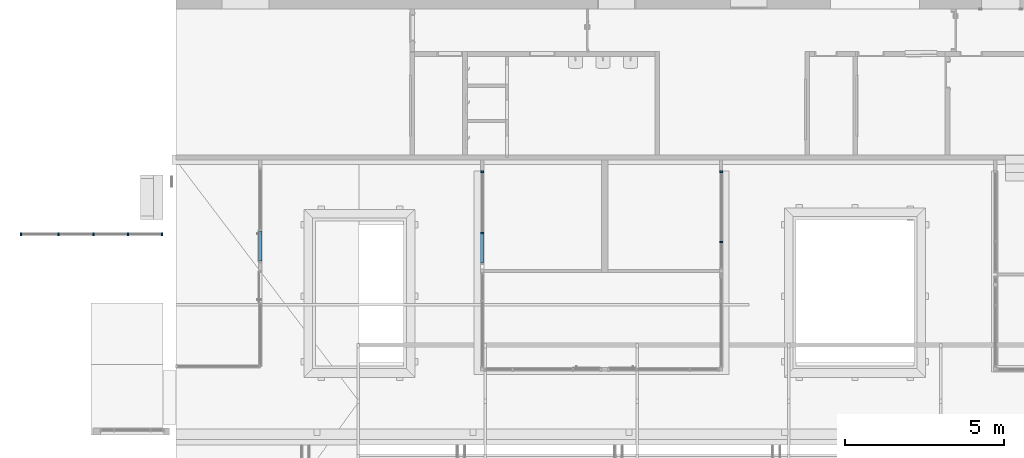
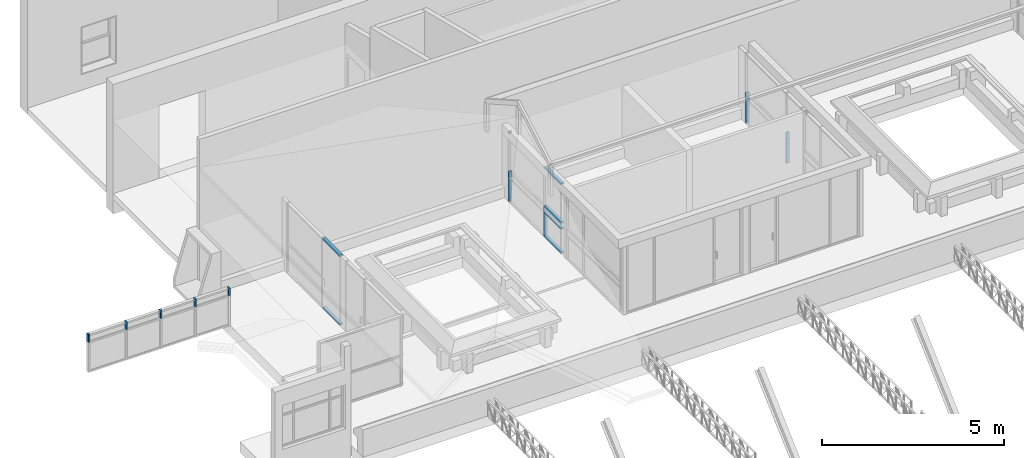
# One storey, part 66 of 153: 22 members, 4 elements without a shape of their own.
"""IFC4 building model written with IfcOpenShell, lengths in metres."""

from ifc_helpers import new_model, entity, si_unit, converted_unit, derived_unit, direction, frame, origin, place, context, subcontext, project, spatial, indexed_curve, outline, extrude, source, transform, mapped, material, type_object, type_shapes, element, aggregate, save


model = new_model("IFC4")

# Units and contexts
model_context = context("Model", 3, precision=1e-05, world=origin(), true_north=direction((6.123031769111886e-17, 1.0)))
body_context = subcontext(model_context, "Body", "Model", "MODEL_VIEW")
ifc_project = project(units=[si_unit("LENGTHUNIT", "METRE"), si_unit("AREAUNIT", "SQUARE_METRE"), si_unit("VOLUMEUNIT", "CUBIC_METRE"), converted_unit("PLANEANGLEUNIT", "DEGREE", entity("IfcRatioMeasure", 0.017453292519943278), si_unit("PLANEANGLEUNIT", "RADIAN"), dimensions=[0, 0, 0, 0, 0, 0, 0]), si_unit("MASSUNIT", "GRAM", prefix="KILO"), derived_unit("MASSDENSITYUNIT", [(si_unit("MASSUNIT", "GRAM", prefix="KILO"), 1), (si_unit("LENGTHUNIT", "METRE"), -3)]), derived_unit("MOMENTOFINERTIAUNIT", [(si_unit("LENGTHUNIT", "METRE"), 4)]), si_unit("TIMEUNIT", "SECOND"), si_unit("FREQUENCYUNIT", "HERTZ"), si_unit("THERMODYNAMICTEMPERATUREUNIT", "DEGREE_CELSIUS"), derived_unit("THERMALTRANSMITTANCEUNIT", [(si_unit("MASSUNIT", "GRAM", prefix="KILO"), 1), (si_unit("THERMODYNAMICTEMPERATUREUNIT", "KELVIN"), -1), (si_unit("TIMEUNIT", "SECOND"), -3)]), derived_unit("VOLUMETRICFLOWRATEUNIT", [(si_unit("LENGTHUNIT", "METRE"), 3), (si_unit("TIMEUNIT", "SECOND"), -1)]), derived_unit("MASSFLOWRATEUNIT", [(si_unit("MASSUNIT", "GRAM", prefix="KILO"), 1), (si_unit("TIMEUNIT", "SECOND"), -1)]), derived_unit("ROTATIONALFREQUENCYUNIT", [(si_unit("TIMEUNIT", "SECOND"), -1)]), si_unit("ELECTRICCURRENTUNIT", "AMPERE"), si_unit("ELECTRICVOLTAGEUNIT", "VOLT"), si_unit("POWERUNIT", "WATT"), si_unit("FORCEUNIT", "NEWTON", prefix="KILO"), si_unit("ILLUMINANCEUNIT", "LUX"), si_unit("LUMINOUSFLUXUNIT", "LUMEN"), si_unit("LUMINOUSINTENSITYUNIT", "CANDELA"), derived_unit("USERDEFINED", [(si_unit("MASSUNIT", "GRAM", prefix="KILO"), -1), (si_unit("LENGTHUNIT", "METRE"), -2), (si_unit("TIMEUNIT", "SECOND"), 3), (si_unit("LUMINOUSFLUXUNIT", "LUMEN"), 1)]), derived_unit("SOUNDPOWERUNIT", [(si_unit("MASSUNIT", "GRAM", prefix="KILO"), 1), (si_unit("LENGTHUNIT", "METRE"), 2), (si_unit("TIMEUNIT", "SECOND"), -3)]), derived_unit("SOUNDPRESSUREUNIT", [(si_unit("MASSUNIT", "GRAM", prefix="KILO"), 1), (si_unit("LENGTHUNIT", "METRE"), -1), (si_unit("TIMEUNIT", "SECOND"), -2)]), derived_unit("LINEARVELOCITYUNIT", [(si_unit("LENGTHUNIT", "METRE"), 1), (si_unit("TIMEUNIT", "SECOND"), -1)]), si_unit("PRESSUREUNIT", "PASCAL"), derived_unit("USERDEFINED", [(si_unit("LENGTHUNIT", "METRE"), -2), (si_unit("MASSUNIT", "GRAM", prefix="KILO"), 1), (si_unit("TIMEUNIT", "SECOND"), -2)]), derived_unit("LINEARFORCEUNIT", [(si_unit("MASSUNIT", "GRAM", prefix="KILO"), 1), (si_unit("LENGTHUNIT", "METRE"), 1), (si_unit("TIMEUNIT", "SECOND"), -2), (si_unit("LENGTHUNIT", "METRE"), -1)]), derived_unit("PLANARFORCEUNIT", [(si_unit("MASSUNIT", "GRAM", prefix="KILO"), 1), (si_unit("LENGTHUNIT", "METRE"), 1), (si_unit("TIMEUNIT", "SECOND"), -2), (si_unit("LENGTHUNIT", "METRE"), -2)])], contexts=[model_context])

# Site, building, storey
site_placement = place(None, origin())
site = spatial("IfcSite", under=ifc_project, at=site_placement, Name="Superficie", CompositionType="ELEMENT")
building_placement = place(site_placement, origin())
building = spatial("IfcBuilding", under=site, at=building_placement, CompositionType="ELEMENT")
storey_placement = place(building_placement, frame((0.0, 0.0, 3.5999999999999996)))
storey = spatial("IfcBuildingStorey", under=building, at=storey_placement, Name="Nivel 1", CompositionType="ELEMENT", Elevation=3.5999999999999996)

# Curtain wall, member
curtain_wall_type = type_object("IfcCurtainWallType", Name="Muro cortina:Muro cortina - simple", PredefinedType="NOTDEFINED")
curtain_wall_1_placement = place(storey_placement, frame((0.0, 0.0, -3.5999999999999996)))
curtain_wall_1 = element("IfcCurtainWall", 1, at=curtain_wall_1_placement, inside=storey, type_object=curtain_wall_type, Name="Muro cortina:Muro cortina - simple", ObjectType="Muro cortina:Muro cortina - simple", PredefinedType="NOTDEFINED")
ifc_material = material(Name="<Unnamed>")
member_type_1 = type_object("IfcMemberType", Name="Montante rectangular:Montante rectangular - 5 x 10 cm", PredefinedType="MULLION", material=ifc_material)
shared_shape_1 = source(origin(), body_context, "Body", "SweptSolid", [
    extrude(outline(indexed_curve([(-0.05, -0.025), (0.05, -0.025), (0.05, 0.025), (-0.05, 0.025), (-0.05, -0.025)], self_intersect=False)), frame((0.0, 0.0, -0.19999999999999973), z_axis=(0.0, 0.0, 1.0), x_axis=(0.0, -1.0, 0.0)), (0.0, 0.0, 1.0), 0.19999999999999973),
])
type_shapes(member_type_1, [shared_shape_1])
member_1_placement = place(curtain_wall_1_placement, frame((-5.51320098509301, 3.0452328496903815, 4.43), z_axis=(0.0, 0.0, -1.0), x_axis=(0.0, 1.0, 0.0)))
member_1 = element("IfcMember", 2, at=member_1_placement, type_object=member_type_1, material=ifc_material, Name="Montante rectangular:Montante rectangular - 5 x 10 cm", ObjectType="Montante rectangular:Montante rectangular - 5 x 10 cm", PredefinedType="MULLION", context=body_context, shape_type="MappedRepresentation", body=[
    mapped(shared_shape_1, transform((0.0, 0.0, 0.0), scale=1.0)),
])

curtain_wall_2_placement = place(storey_placement, frame((0.0, 0.0, -3.5999999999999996)))
curtain_wall_2 = element("IfcCurtainWall", 3, at=curtain_wall_2_placement, inside=storey, type_object=curtain_wall_type, Name="Muro cortina:Muro cortina - simple", ObjectType="Muro cortina:Muro cortina - simple", PredefinedType="NOTDEFINED")
member_2_placement = place(curtain_wall_2_placement, frame((-13.023200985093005, 3.3263932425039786, 4.43), z_axis=(0.0, 0.0, -1.0), x_axis=(0.0, 1.0, 0.0)))
member_2 = element("IfcMember", 4, at=member_2_placement, type_object=member_type_1, material=ifc_material, Name="Montante rectangular:Montante rectangular - 5 x 10 cm", ObjectType="Montante rectangular:Montante rectangular - 5 x 10 cm", PredefinedType="MULLION", context=body_context, shape_type="MappedRepresentation", body=[
    mapped(shared_shape_1, transform((0.0, 0.0, 0.0), scale=1.0)),
])

# Member
member_type_2 = type_object("IfcMemberType", Name="Montante rectangular:Montante rectangular - 5 x 10 cm", PredefinedType="MULLION", material=ifc_material)
shared_shape_2 = source(origin(), body_context, "Body", "SweptSolid", [
    extrude(outline(indexed_curve([(-0.05, -0.025), (0.05, -0.025), (0.05, 0.025), (-0.05, 0.025), (-0.05, -0.025)], self_intersect=False)), frame((0.0, 0.0, -0.8350000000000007), z_axis=(0.0, 0.0, 1.0), x_axis=(0.0, -1.0, 0.0)), (0.0, 0.0, 1.0), 0.8350000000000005),
])
type_shapes(member_type_2, [shared_shape_2])
member_3_placement = place(curtain_wall_1_placement, frame((-5.51320098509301, 3.0452328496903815, 3.5949999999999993), z_axis=(0.0, 0.0, -1.0), x_axis=(0.0, 1.0, 0.0)))
member_3 = element("IfcMember", 5, at=member_3_placement, type_object=member_type_2, material=ifc_material, Name="Montante rectangular:Montante rectangular - 5 x 10 cm", ObjectType="Montante rectangular:Montante rectangular - 5 x 10 cm", PredefinedType="MULLION", context=body_context, shape_type="MappedRepresentation", body=[
    mapped(shared_shape_2, transform((0.0, 0.0, 0.0), scale=1.0)),
])

member_4_placement = place(curtain_wall_2_placement, frame((-13.023200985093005, 3.3263932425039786, 3.5949999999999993), z_axis=(0.0, 0.0, -1.0), x_axis=(0.0, 1.0, 0.0)))
member_4 = element("IfcMember", 6, at=member_4_placement, type_object=member_type_2, material=ifc_material, Name="Montante rectangular:Montante rectangular - 5 x 10 cm", ObjectType="Montante rectangular:Montante rectangular - 5 x 10 cm", PredefinedType="MULLION", context=body_context, shape_type="MappedRepresentation", body=[
    mapped(shared_shape_2, transform((0.0, 0.0, 0.0), scale=1.0)),
])

member_5_placement = place(curtain_wall_2_placement, frame((-13.023200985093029, 5.256393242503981, 3.5949999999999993), z_axis=(0.0, 0.0, -1.0), x_axis=(0.0, 1.0, 0.0)))
member_5 = element("IfcMember", 7, at=member_5_placement, type_object=member_type_2, material=ifc_material, Name="Montante rectangular:Montante rectangular - 5 x 10 cm", ObjectType="Montante rectangular:Montante rectangular - 5 x 10 cm", PredefinedType="MULLION", context=body_context, shape_type="MappedRepresentation", body=[
    mapped(shared_shape_2, transform((0.0, 0.0, 0.0), scale=1.0)),
])

member_type_3 = type_object("IfcMemberType", Name="Montante rectangular:Montante rectangular - 5 x 10 cm", PredefinedType="MULLION", material=ifc_material)
shared_shape_3 = source(origin(), body_context, "Body", "SweptSolid", [
    extrude(outline(indexed_curve([(-0.05, -0.025), (0.05, -0.025), (0.05, 0.025), (-0.05, 0.025), (-0.05, -0.025)], self_intersect=False)), frame((-0.025, 0.0, -0.2), z_axis=(0.0, 0.0, 1.0), x_axis=(0.0, -1.0, 0.0)), (0.0, 0.0, 1.0), 0.2),
])
type_shapes(member_type_3, [shared_shape_3])
member_6_placement = place(curtain_wall_1_placement, frame((-5.513200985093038, 5.276393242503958, 4.43), z_axis=(0.0, 0.0, -1.0), x_axis=(0.0, 1.0, 0.0)))
member_6 = element("IfcMember", 8, at=member_6_placement, type_object=member_type_3, material=ifc_material, Name="Montante rectangular:Montante rectangular - 5 x 10 cm", ObjectType="Montante rectangular:Montante rectangular - 5 x 10 cm", PredefinedType="MULLION", context=body_context, shape_type="MappedRepresentation", body=[
    mapped(shared_shape_3, transform((0.0, 0.0, 0.0), scale=1.0)),
])

member_type_4 = type_object("IfcMemberType", Name="Montante rectangular:Montante rectangular - 5 x 10 cm", PredefinedType="MULLION", material=ifc_material)
shared_shape_4 = source(origin(), body_context, "Body", "SweptSolid", [
    extrude(outline(indexed_curve([(-0.05, -0.025), (0.05, -0.025), (0.05, 0.025), (-0.05, 0.025), (-0.05, -0.025)], self_intersect=False)), frame((-0.025, 0.0, -0.8349999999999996), z_axis=(0.0, 0.0, 1.0), x_axis=(0.0, -1.0, 0.0)), (0.0, 0.0, 1.0), 0.8349999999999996),
])
type_shapes(member_type_4, [shared_shape_4])
member_7_placement = place(curtain_wall_1_placement, frame((-5.513200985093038, 5.276393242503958, 3.5949999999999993), z_axis=(0.0, 0.0, -1.0), x_axis=(0.0, 1.0, 0.0)))
member_7 = element("IfcMember", 9, at=member_7_placement, type_object=member_type_4, material=ifc_material, Name="Montante rectangular:Montante rectangular - 5 x 10 cm", ObjectType="Montante rectangular:Montante rectangular - 5 x 10 cm", PredefinedType="MULLION", context=body_context, shape_type="MappedRepresentation", body=[
    mapped(shared_shape_4, transform((0.0, 0.0, 0.0), scale=1.0)),
])

aggregate(curtain_wall_1, [member_1, member_3, member_6, member_7])

member_type_5 = type_object("IfcMemberType", Name="Montante rectangular:Montante rectangular - 5 x 10 cm", PredefinedType="MULLION", material=ifc_material)
shared_shape_5 = source(origin(), body_context, "Body", "SweptSolid", [
    extrude(outline(indexed_curve([(-0.05, -0.025), (0.05, -0.025), (0.05, 0.025), (-0.05, 0.025), (-0.05, -0.025)], self_intersect=False)), frame((-0.025, 0.0, -0.2), z_axis=(0.0, 0.0, 1.0), x_axis=(0.0, -1.0, 0.0)), (0.0, 0.0, 1.0), 0.2),
])
type_shapes(member_type_5, [shared_shape_5])
member_8_placement = place(curtain_wall_2_placement, frame((-13.023200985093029, 5.276393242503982, 4.43), z_axis=(0.0, 0.0, -1.0), x_axis=(0.0, 1.0, 0.0)))
member_8 = element("IfcMember", 10, at=member_8_placement, type_object=member_type_5, material=ifc_material, Name="Montante rectangular:Montante rectangular - 5 x 10 cm", ObjectType="Montante rectangular:Montante rectangular - 5 x 10 cm", PredefinedType="MULLION", context=body_context, shape_type="MappedRepresentation", body=[
    mapped(shared_shape_5, transform((0.0, 0.0, 0.0), scale=1.0)),
])

member_type_6 = type_object("IfcMemberType", Name="Montante rectangular:Montante rectangular - 5 x 10 cm", PredefinedType="MULLION", material=ifc_material)
shared_shape_6 = source(origin(), body_context, "Body", "SweptSolid", [
    extrude(outline(indexed_curve([(-0.05, -0.025), (0.05, -0.025), (0.05, 0.025), (-0.05, 0.025), (-0.05, -0.025)], self_intersect=False)), frame((-0.025, 0.0, -0.8100000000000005), z_axis=(0.0, 0.0, 1.0), x_axis=(0.0, -1.0, 0.0)), (0.0, 0.0, 1.0), 0.8100000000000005),
])
type_shapes(member_type_6, [shared_shape_6])
member_9_placement = place(curtain_wall_2_placement, frame((-13.023200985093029, 5.276393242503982, 3.619999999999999), z_axis=(0.0, 0.0, -1.0), x_axis=(0.0, 1.0, 0.0)))
member_9 = element("IfcMember", 11, at=member_9_placement, type_object=member_type_6, material=ifc_material, Name="Montante rectangular:Montante rectangular - 5 x 10 cm", ObjectType="Montante rectangular:Montante rectangular - 5 x 10 cm", PredefinedType="MULLION", context=body_context, shape_type="MappedRepresentation", body=[
    mapped(shared_shape_6, transform((0.0, 0.0, 0.0), scale=1.0)),
])

member_type_7 = type_object("IfcMemberType", Name="Montante rectangular:Montante rectangular - 5 x 10 cm", PredefinedType="MULLION", material=ifc_material)
shared_shape_7 = source(origin(), body_context, "Body", "SweptSolid", [
    extrude(outline(indexed_curve([(-0.05, -0.025), (0.05, -0.025), (0.05, 0.025), (-0.05, 0.025), (-0.05, -0.025)], self_intersect=False)), frame((0.0, 0.0, -0.07000000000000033), z_axis=(0.0, 0.0, 1.0), x_axis=(0.0, -1.0, 0.0)), (0.0, 0.0, 1.0), 0.07000000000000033),
])
type_shapes(member_type_7, [shared_shape_7])
member_10_placement = place(curtain_wall_2_placement, frame((-13.023200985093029, 5.256393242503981, 5.879999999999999), z_axis=(0.0, 0.0, -1.0), x_axis=(0.0, 1.0, 0.0)))
member_10 = element("IfcMember", 12, at=member_10_placement, type_object=member_type_7, material=ifc_material, Name="Montante rectangular:Montante rectangular - 5 x 10 cm", ObjectType="Montante rectangular:Montante rectangular - 5 x 10 cm", PredefinedType="MULLION", context=body_context, shape_type="MappedRepresentation", body=[
    mapped(shared_shape_7, transform((0.0, 0.0, 0.0), scale=1.0)),
])

member_type_8 = type_object("IfcMemberType", Name="Montante rectangular:Montante rectangular - 5 x 10 cm", PredefinedType="MULLION", material=ifc_material)
shared_shape_8 = source(origin(), body_context, "Body", "SweptSolid", [
    extrude(outline(indexed_curve([(-0.05, -0.025), (0.05, -0.025), (0.05, 0.025), (-0.05, 0.025), (-0.05, -0.025)], self_intersect=False)), frame((0.0, 0.0, -0.9099999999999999), z_axis=(0.0, 0.0, 1.0), x_axis=(0.0, -1.0, 0.0)), (0.0, 0.0, 1.0), 0.9099999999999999),
])
type_shapes(member_type_8, [shared_shape_8])
member_11_placement = place(curtain_wall_2_placement, frame((-13.023200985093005, 3.301393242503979, 3.619999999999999), z_axis=(0.0, 1.0, 0.0), x_axis=(0.0, 0.0, 1.0)))
member_11 = element("IfcMember", 13, at=member_11_placement, type_object=member_type_8, material=ifc_material, Name="Montante rectangular:Montante rectangular - 5 x 10 cm", ObjectType="Montante rectangular:Montante rectangular - 5 x 10 cm", PredefinedType="MULLION", context=body_context, shape_type="MappedRepresentation", body=[
    mapped(shared_shape_8, transform((0.0, 0.0, 0.0), scale=1.0)),
])

member_12_placement = place(curtain_wall_2_placement, frame((-13.023200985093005, 3.301393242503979, 4.43), z_axis=(0.0, 1.0, 0.0), x_axis=(0.0, 0.0, 1.0)))
member_12 = element("IfcMember", 14, at=member_12_placement, type_object=member_type_8, material=ifc_material, Name="Montante rectangular:Montante rectangular - 5 x 10 cm", ObjectType="Montante rectangular:Montante rectangular - 5 x 10 cm", PredefinedType="MULLION", context=body_context, shape_type="MappedRepresentation", body=[
    mapped(shared_shape_8, transform((0.0, 0.0, 0.0), scale=1.0)),
])

member_13_placement = place(curtain_wall_2_placement, frame((-13.023200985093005, 3.301393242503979, 4.63), z_axis=(0.0, 1.0, 0.0), x_axis=(0.0, 0.0, 1.0)))
member_13 = element("IfcMember", 15, at=member_13_placement, type_object=member_type_8, material=ifc_material, Name="Montante rectangular:Montante rectangular - 5 x 10 cm", ObjectType="Montante rectangular:Montante rectangular - 5 x 10 cm", PredefinedType="MULLION", context=body_context, shape_type="MappedRepresentation", body=[
    mapped(shared_shape_8, transform((0.0, 0.0, 0.0), scale=1.0)),
])

member_type_9 = type_object("IfcMemberType", Name="Montante rectangular:Montante rectangular - 5 x 10 cm", PredefinedType="MULLION", material=ifc_material)
shared_shape_9 = source(origin(), body_context, "Body", "SweptSolid", [
    extrude(outline(indexed_curve([(-0.05, -0.025), (0.05, -0.025), (0.05, 0.025), (-0.05, 0.025), (-0.05, -0.025)], self_intersect=False)), frame((0.0, 0.0, -0.1750000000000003), z_axis=(0.0, 0.0, 1.0), x_axis=(0.0, -1.0, 0.0)), (0.0, 0.0, 1.0), 0.1750000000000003),
])
type_shapes(member_type_9, [shared_shape_9])
member_14_placement = place(curtain_wall_2_placement, frame((-13.023200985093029, 5.256393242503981, 4.43), z_axis=(0.0, 0.0, -1.0), x_axis=(0.0, 1.0, 0.0)))
member_14 = element("IfcMember", 16, at=member_14_placement, type_object=member_type_9, material=ifc_material, Name="Montante rectangular:Montante rectangular - 5 x 10 cm", ObjectType="Montante rectangular:Montante rectangular - 5 x 10 cm", PredefinedType="MULLION", context=body_context, shape_type="MappedRepresentation", body=[
    mapped(shared_shape_9, transform((0.0, 0.0, 0.0), scale=1.0)),
])

member_type_10 = type_object("IfcMemberType", Name="Montante rectangular:Montante rectangular - 5 x 10 cm", PredefinedType="MULLION", material=ifc_material)
shared_shape_10 = source(origin(), body_context, "Body", "SweptSolid", [
    extrude(outline(indexed_curve([(-0.05, -0.025), (0.05, -0.025), (0.05, 0.025), (-0.05, 0.025), (-0.05, -0.025)], self_intersect=False)), frame((-0.025, 0.0, -0.9349999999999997), z_axis=(0.0, 0.0, 1.0), x_axis=(0.0, -1.0, 0.0)), (0.0, 0.0, 1.0), 0.9349999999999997),
])
type_shapes(member_type_10, [shared_shape_10])
member_15_placement = place(curtain_wall_2_placement, frame((-13.023200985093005, 3.326393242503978, 5.949999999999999), z_axis=(0.0, 1.0, 0.0), x_axis=(0.0, 0.0, 1.0)))
member_15 = element("IfcMember", 17, at=member_15_placement, type_object=member_type_10, material=ifc_material, Name="Montante rectangular:Montante rectangular - 5 x 10 cm", ObjectType="Montante rectangular:Montante rectangular - 5 x 10 cm", PredefinedType="MULLION", context=body_context, shape_type="MappedRepresentation", body=[
    mapped(shared_shape_10, transform((0.0, 0.0, 0.0), scale=1.0)),
])

aggregate(curtain_wall_2, [member_14, member_2, member_4, member_11, member_15, member_8, member_9, member_10, member_5, member_12, member_13])

# Curtain wall, members
curtain_wall_3_placement = place(storey_placement, frame((0.0, 0.0, -3.5999999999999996)))
curtain_wall_3 = element("IfcCurtainWall", 18, at=curtain_wall_3_placement, inside=storey, type_object=curtain_wall_type, Name="Muro cortina:Muro cortina - simple", ObjectType="Muro cortina:Muro cortina - simple", PredefinedType="NOTDEFINED")
member_type_11 = type_object("IfcMemberType", Name="Montante rectangular:Montante rectangular - 5 x 10 cm", PredefinedType="MULLION", material=ifc_material)
shared_shape_11 = source(origin(), body_context, "Body", "SweptSolid", [
    extrude(outline(indexed_curve([(-0.05, -0.025), (0.05, -0.025), (0.05, 0.025), (-0.05, 0.025), (-0.05, -0.025)], self_intersect=False)), frame((-0.025, 0.0, -0.9499999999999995), z_axis=(0.0, 0.0, 1.0), x_axis=(0.0, -1.0, 0.0)), (0.0, 0.0, 1.0), 0.9499999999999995),
])
type_shapes(member_type_11, [shared_shape_11])
member_16_placement = place(curtain_wall_3_placement, frame((-19.993200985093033, 2.442083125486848, 5.949999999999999), z_axis=(0.0, -1.0, 0.0), x_axis=(0.0, 0.0, 1.0)))
member_16 = element("IfcMember", 19, at=member_16_placement, type_object=member_type_11, material=ifc_material, Name="Montante rectangular:Montante rectangular - 5 x 10 cm", ObjectType="Montante rectangular:Montante rectangular - 5 x 10 cm", PredefinedType="MULLION", context=body_context, shape_type="MappedRepresentation", body=[
    mapped(shared_shape_11, transform((0.0, 0.0, 0.0), scale=1.0)),
])
member_type_12 = type_object("IfcMemberType", Name="Montante rectangular:Montante rectangular - 5 x 10 cm", PredefinedType="MULLION", material=ifc_material)
shared_shape_12 = source(origin(), body_context, "Body", "SweptSolid", [
    extrude(outline(indexed_curve([(-0.05, -0.025), (0.05, -0.025), (0.05, 0.025), (-0.05, 0.025), (-0.05, -0.025)], self_intersect=False)), frame((-0.025, 0.0, -0.9499999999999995), z_axis=(0.0, 0.0, 1.0), x_axis=(0.0, -1.0, 0.0)), (0.0, 0.0, 1.0), 0.9499999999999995),
])
type_shapes(member_type_12, [shared_shape_12])
member_17_placement = place(curtain_wall_3_placement, frame((-19.993200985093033, 3.3920831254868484, 3.5999999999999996), z_axis=(0.0, 1.0, 0.0), x_axis=(0.0, 0.0, -1.0)))
member_17 = element("IfcMember", 20, at=member_17_placement, type_object=member_type_12, material=ifc_material, Name="Montante rectangular:Montante rectangular - 5 x 10 cm", ObjectType="Montante rectangular:Montante rectangular - 5 x 10 cm", PredefinedType="MULLION", context=body_context, shape_type="MappedRepresentation", body=[
    mapped(shared_shape_12, transform((0.0, 0.0, 0.0), scale=1.0)),
])
aggregate(curtain_wall_3, [member_16, member_17])

curtain_wall_4_placement = place(storey_placement, frame((0.0, 0.0, -3.5999999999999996)))
curtain_wall_4 = element("IfcCurtainWall", 21, at=curtain_wall_4_placement, inside=storey, type_object=curtain_wall_type, Name="Muro cortina:Muro cortina - simple", ObjectType="Muro cortina:Muro cortina - simple", PredefinedType="NOTDEFINED")
member_type_13 = type_object("IfcMemberType", Name="Montante rectangular:Montante rectangular - 5 x 10 cm", PredefinedType="MULLION", material=ifc_material)
shared_shape_13 = source(origin(), body_context, "Body", "SweptSolid", [
    extrude(outline(indexed_curve([(-0.05, -0.025), (0.05, -0.025), (0.05, 0.025), (-0.05, 0.025), (-0.05, -0.025)], self_intersect=False)), frame((-0.025, 0.0, -0.25928548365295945), z_axis=(0.0, 0.0, 1.0), x_axis=(0.0, -1.0, 0.0)), (0.0, 0.0, 1.0), 0.25928548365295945),
])
type_shapes(member_type_13, [shared_shape_13])
member_18_placement = place(curtain_wall_4_placement, frame((-27.543200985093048, 3.290829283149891, 5.429999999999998), z_axis=(0.0, 0.0, 1.0), x_axis=(-1.0, 0.0, 0.0)))
member_18 = element("IfcMember", 22, at=member_18_placement, type_object=member_type_13, material=ifc_material, Name="Montante rectangular:Montante rectangular - 5 x 10 cm", ObjectType="Montante rectangular:Montante rectangular - 5 x 10 cm", PredefinedType="MULLION", context=body_context, shape_type="MappedRepresentation", body=[
    mapped(shared_shape_13, transform((0.0, 0.0, 0.0), scale=1.0)),
])
member_type_14 = type_object("IfcMemberType", Name="Montante rectangular:Montante rectangular - 5 x 10 cm", PredefinedType="MULLION", material=ifc_material)
shared_shape_14 = source(origin(), body_context, "Body", "SweptSolid", [
    extrude(outline(indexed_curve([(-0.05, -0.025), (0.05, -0.025), (0.05, 0.025), (-0.05, 0.025), (-0.05, -0.025)], self_intersect=False)), frame((-0.025, 0.0, -0.25928548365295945), z_axis=(0.0, 0.0, 1.0), x_axis=(0.0, -1.0, 0.0)), (0.0, 0.0, 1.0), 0.25928548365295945),
])
type_shapes(member_type_14, [shared_shape_14])
member_19_placement = place(curtain_wall_4_placement, frame((-23.05166362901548, 3.290829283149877, 5.170714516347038), z_axis=(0.0, 0.0, -1.0), x_axis=(1.0, 0.0, 0.0)))
member_19 = element("IfcMember", 23, at=member_19_placement, type_object=member_type_14, material=ifc_material, Name="Montante rectangular:Montante rectangular - 5 x 10 cm", ObjectType="Montante rectangular:Montante rectangular - 5 x 10 cm", PredefinedType="MULLION", context=body_context, shape_type="MappedRepresentation", body=[
    mapped(shared_shape_14, transform((0.0, 0.0, 0.0), scale=1.0)),
])
member_type_15 = type_object("IfcMemberType", Name="Montante rectangular:Montante rectangular - 5 x 10 cm", PredefinedType="MULLION", material=ifc_material)
shared_shape_15 = source(origin(), body_context, "Body", "SweptSolid", [
    extrude(outline(indexed_curve([(-0.05, -0.025), (0.05, -0.025), (0.05, 0.025), (-0.05, 0.025), (-0.05, -0.025)], self_intersect=False)), frame((0.0, 0.0, -0.25928548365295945), z_axis=(0.0, 0.0, 1.0), x_axis=(0.0, -1.0, 0.0)), (0.0, 0.0, 1.0), 0.25928548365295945),
])
type_shapes(member_type_15, [shared_shape_15])
member_20_placement = place(curtain_wall_4_placement, frame((-24.144885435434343, 3.2908292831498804, 5.170714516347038), z_axis=(0.0, 0.0, -1.0), x_axis=(1.0, 0.0, 0.0)))
member_20 = element("IfcMember", 24, at=member_20_placement, type_object=member_type_15, material=ifc_material, Name="Montante rectangular:Montante rectangular - 5 x 10 cm", ObjectType="Montante rectangular:Montante rectangular - 5 x 10 cm", PredefinedType="MULLION", context=body_context, shape_type="MappedRepresentation", body=[
    mapped(shared_shape_15, transform((0.0, 0.0, 0.0), scale=1.0)),
])
member_21_placement = place(curtain_wall_4_placement, frame((-25.238107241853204, 3.2908292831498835, 5.170714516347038), z_axis=(0.0, 0.0, -1.0), x_axis=(1.0, 0.0, 0.0)))
member_21 = element("IfcMember", 25, at=member_21_placement, type_object=member_type_15, material=ifc_material, Name="Montante rectangular:Montante rectangular - 5 x 10 cm", ObjectType="Montante rectangular:Montante rectangular - 5 x 10 cm", PredefinedType="MULLION", context=body_context, shape_type="MappedRepresentation", body=[
    mapped(shared_shape_15, transform((0.0, 0.0, 0.0), scale=1.0)),
])
member_22_placement = place(curtain_wall_4_placement, frame((-26.33132904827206, 3.2908292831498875, 5.170714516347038), z_axis=(0.0, 0.0, -1.0), x_axis=(1.0, 0.0, 0.0)))
member_22 = element("IfcMember", 26, at=member_22_placement, type_object=member_type_15, material=ifc_material, Name="Montante rectangular:Montante rectangular - 5 x 10 cm", ObjectType="Montante rectangular:Montante rectangular - 5 x 10 cm", PredefinedType="MULLION", context=body_context, shape_type="MappedRepresentation", body=[
    mapped(shared_shape_15, transform((0.0, 0.0, 0.0), scale=1.0)),
])
aggregate(curtain_wall_4, [member_18, member_19, member_20, member_21, member_22])

save(model, "model.ifc")
